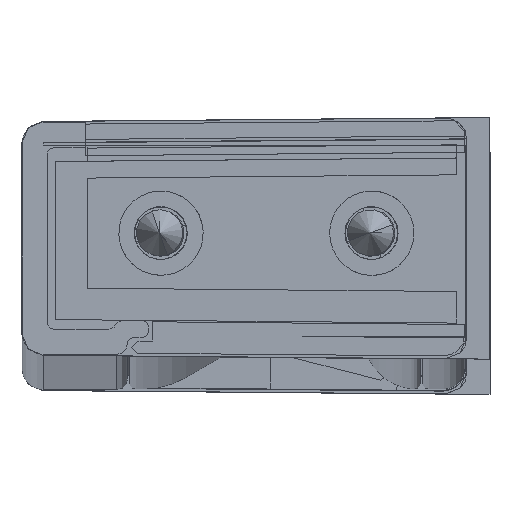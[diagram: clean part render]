
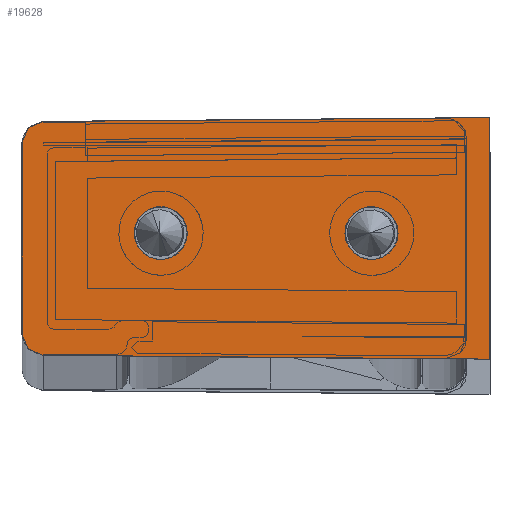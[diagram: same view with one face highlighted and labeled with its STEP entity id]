
A CAD part, top view. The second image highlights one B-rep face of the part: STEP entity #19628.
In plain terms, the highlighted planar face has unit normal (-0.009, 0, 1) as drawn and (0.009, 0, -1) by its records, which use the part's own axes.
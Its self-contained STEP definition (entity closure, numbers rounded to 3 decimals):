
#198 = CARTESIAN_POINT ( 'NONE',  ( 20.6, 8.395, -2.986 ) ) ;
#208 = DIRECTION ( 'NONE',  ( 1., 0., 0.009 ) ) ;
#310 = EDGE_LOOP ( 'NONE', ( #41464, #22295, #36000, #33531, #40912, #28053 ) ) ;
#831 = CARTESIAN_POINT ( 'NONE',  ( 12.783, 4.1, -3.054 ) ) ;
#1088 = DIRECTION ( 'NONE',  ( 1., -0.009, 0.009 ) ) ;
#2300 = VECTOR ( 'NONE', #10697, 1000. ) ;
#2977 = CARTESIAN_POINT ( 'NONE',  ( 20.19, -1.69, -2.99 ) ) ;
#3941 = CARTESIAN_POINT ( 'NONE',  ( 19.609, -1.695, -2.995 ) ) ;
#4260 =( BOUNDED_CURVE ( )  B_SPLINE_CURVE ( 3, ( #31042, #34225, #2977, #8891 ),
 .UNSPECIFIED., .F., .T. ) 
 B_SPLINE_CURVE_WITH_KNOTS ( ( 4, 4 ),
 ( 3.142, 4.704 ),
 .UNSPECIFIED. ) 
 CURVE ( )  GEOMETRIC_REPRESENTATION_ITEM ( )  RATIONAL_B_SPLINE_CURVE ( ( 1., 0.807, 0.807, 1. ) ) 
 REPRESENTATION_ITEM ( '' )  );
#4548 = DIRECTION ( 'NONE',  ( 0.009, 0., -1. ) ) ;
#5161 = CARTESIAN_POINT ( 'NONE',  ( 19.126, -1.699, -2.999 ) ) ;
#6164 = LINE ( 'NONE', #12695, #27366 ) ;
#6879 = CARTESIAN_POINT ( 'NONE',  ( 4.033, 4.1, -3.131 ) ) ;
#6941 = EDGE_CURVE ( 'NONE', #17334, #24529, #31482, .T. ) ;
#7085 = DIRECTION ( 'NONE',  ( 1., 0., 0.009 ) ) ;
#7249 = VERTEX_POINT ( 'NONE', #28957 ) ;
#7467 = EDGE_CURVE ( 'NONE', #20690, #32792, #32804, .T. ) ;
#7579 = AXIS2_PLACEMENT_3D ( 'NONE', #20800, #36831, #33646 ) ;
#7867 = CARTESIAN_POINT ( 'NONE',  ( 14.033, 4.1, -3.043 ) ) ;
#8891 = CARTESIAN_POINT ( 'NONE',  ( 19.609, -1.695, -2.995 ) ) ;
#9169 = AXIS2_PLACEMENT_3D ( 'NONE', #7867, #17380, #18025 ) ;
#9240 = CARTESIAN_POINT ( 'NONE',  ( 20.6, 8.395, -2.986 ) ) ;
#10233 = PLANE ( 'NONE',  #21079 ) ;
#10697 = DIRECTION ( 'NONE',  ( 0., 1., 0. ) ) ;
#10924 = VERTEX_POINT ( 'NONE', #28373 ) ;
#11535 = CARTESIAN_POINT ( 'NONE',  ( 15.283, 4.1, -3.032 ) ) ;
#11845 = AXIS2_PLACEMENT_3D ( 'NONE', #6879, #23169, #7085 ) ;
#12652 = CARTESIAN_POINT ( 'NONE',  ( -1.6, -1.88, -3.18 ) ) ;
#12695 = CARTESIAN_POINT ( 'NONE',  ( 19.126, 9.399, -2.999 ) ) ;
#13880 = CARTESIAN_POINT ( 'NONE',  ( -1.6, -1.7, -3.18 ) ) ;
#14014 = EDGE_LOOP ( 'NONE', ( #40463, #18491 ) ) ;
#14248 = FACE_BOUND ( 'NONE', #26653, .T. ) ;
#15795 = CARTESIAN_POINT ( 'NONE',  ( 20.6, 8.976, -2.986 ) ) ;
#17057 = LINE ( 'NONE', #13880, #2300 ) ;
#17334 = VERTEX_POINT ( 'NONE', #3941 ) ;
#17363 = EDGE_CURVE ( 'NONE', #29681, #7249, #24720, .T. ) ;
#17380 = DIRECTION ( 'NONE',  ( -0.009, 0., 1. ) ) ;
#17601 = EDGE_CURVE ( 'NONE', #25334, #33729, #6164, .T. ) ;
#18025 = DIRECTION ( 'NONE',  ( 1., 0., 0.009 ) ) ;
#18311 =( BOUNDED_CURVE ( )  B_SPLINE_CURVE ( 3, ( #32437, #41335, #15795, #9240 ),
 .UNSPECIFIED., .F., .F. ) 
 B_SPLINE_CURVE_WITH_KNOTS ( ( 4, 4 ),
 ( 1.58, 3.142 ),
 .UNSPECIFIED. ) 
 CURVE ( )  GEOMETRIC_REPRESENTATION_ITEM ( )  RATIONAL_B_SPLINE_CURVE ( ( 1., 0.807, 0.807, 1. ) ) 
 REPRESENTATION_ITEM ( '' )  );
#18377 = CIRCLE ( 'NONE', #7579, 1.25 ) ;
#18491 = ORIENTED_EDGE ( 'NONE', *, *, #37307, .T. ) ;
#19628 = ADVANCED_FACE ( 'NONE', ( #30053, #14248, #33219 ), #10233, .T. ) ;
#19768 = EDGE_CURVE ( 'NONE', #7249, #29681, #18377, .T. ) ;
#20631 = EDGE_CURVE ( 'NONE', #24529, #25334, #17057, .T. ) ;
#20690 = VERTEX_POINT ( 'NONE', #11535 ) ;
#20800 = CARTESIAN_POINT ( 'NONE',  ( 4.033, 4.1, -3.131 ) ) ;
#21079 = AXIS2_PLACEMENT_3D ( 'NONE', #22942, #4548, #26519 ) ;
#21105 = EDGE_CURVE ( 'NONE', #10924, #17334, #4260, .T. ) ;
#22295 = ORIENTED_EDGE ( 'NONE', *, *, #21105, .T. ) ;
#22445 = EDGE_CURVE ( 'NONE', #23976, #10924, #28936, .T. ) ;
#22668 = CIRCLE ( 'NONE', #9169, 1.25 ) ;
#22942 = CARTESIAN_POINT ( 'NONE',  ( 19., 0., -3. ) ) ;
#23091 = CARTESIAN_POINT ( 'NONE',  ( 19.609, 9.395, -2.995 ) ) ;
#23169 = DIRECTION ( 'NONE',  ( -0.009, 0., 1. ) ) ;
#23500 = CARTESIAN_POINT ( 'NONE',  ( -1.6, 9.58, -3.18 ) ) ;
#23976 = VERTEX_POINT ( 'NONE', #198 ) ;
#24529 = VERTEX_POINT ( 'NONE', #12652 ) ;
#24720 = CIRCLE ( 'NONE', #11845, 1.25 ) ;
#25334 = VERTEX_POINT ( 'NONE', #23500 ) ;
#25366 = CARTESIAN_POINT ( 'NONE',  ( 14.033, 4.1, -3.043 ) ) ;
#25935 = ORIENTED_EDGE ( 'NONE', *, *, #19768, .T. ) ;
#26519 = DIRECTION ( 'NONE',  ( -1., 0., -0.009 ) ) ;
#26653 = EDGE_LOOP ( 'NONE', ( #25935, #36225 ) ) ;
#27366 = VECTOR ( 'NONE', #1088, 1000. ) ;
#28053 = ORIENTED_EDGE ( 'NONE', *, *, #29653, .T. ) ;
#28373 = CARTESIAN_POINT ( 'NONE',  ( 20.6, -0.695, -2.986 ) ) ;
#28912 = DIRECTION ( 'NONE',  ( -0.009, 0., 1. ) ) ;
#28936 = LINE ( 'NONE', #35683, #31360 ) ;
#28957 = CARTESIAN_POINT ( 'NONE',  ( 5.283, 4.1, -3.12 ) ) ;
#29653 = EDGE_CURVE ( 'NONE', #33729, #23976, #18311, .T. ) ;
#29681 = VERTEX_POINT ( 'NONE', #32028 ) ;
#30053 = FACE_BOUND ( 'NONE', #14014, .T. ) ;
#30666 = DIRECTION ( 'NONE',  ( -1., -0.009, -0.009 ) ) ;
#31042 = CARTESIAN_POINT ( 'NONE',  ( 20.6, -0.695, -2.986 ) ) ;
#31360 = VECTOR ( 'NONE', #38453, 1000. ) ;
#31482 = LINE ( 'NONE', #5161, #39547 ) ;
#32028 = CARTESIAN_POINT ( 'NONE',  ( 2.783, 4.1, -3.142 ) ) ;
#32437 = CARTESIAN_POINT ( 'NONE',  ( 19.609, 9.395, -2.995 ) ) ;
#32792 = VERTEX_POINT ( 'NONE', #831 ) ;
#32804 = CIRCLE ( 'NONE', #34833, 1.25 ) ;
#33219 = FACE_OUTER_BOUND ( 'NONE', #310, .T. ) ;
#33531 = ORIENTED_EDGE ( 'NONE', *, *, #20631, .T. ) ;
#33646 = DIRECTION ( 'NONE',  ( 1., 0., 0.009 ) ) ;
#33729 = VERTEX_POINT ( 'NONE', #23091 ) ;
#34225 = CARTESIAN_POINT ( 'NONE',  ( 20.6, -1.276, -2.986 ) ) ;
#34833 = AXIS2_PLACEMENT_3D ( 'NONE', #25366, #28912, #208 ) ;
#35683 = CARTESIAN_POINT ( 'NONE',  ( 20.6, 9.4, -2.986 ) ) ;
#36000 = ORIENTED_EDGE ( 'NONE', *, *, #6941, .T. ) ;
#36225 = ORIENTED_EDGE ( 'NONE', *, *, #17363, .T. ) ;
#36831 = DIRECTION ( 'NONE',  ( -0.009, 0., 1. ) ) ;
#37307 = EDGE_CURVE ( 'NONE', #32792, #20690, #22668, .T. ) ;
#38453 = DIRECTION ( 'NONE',  ( 0., -1., 0. ) ) ;
#39547 = VECTOR ( 'NONE', #30666, 1000. ) ;
#40463 = ORIENTED_EDGE ( 'NONE', *, *, #7467, .T. ) ;
#40912 = ORIENTED_EDGE ( 'NONE', *, *, #17601, .T. ) ;
#41335 = CARTESIAN_POINT ( 'NONE',  ( 20.19, 9.39, -2.99 ) ) ;
#41464 = ORIENTED_EDGE ( 'NONE', *, *, #22445, .T. ) ;
